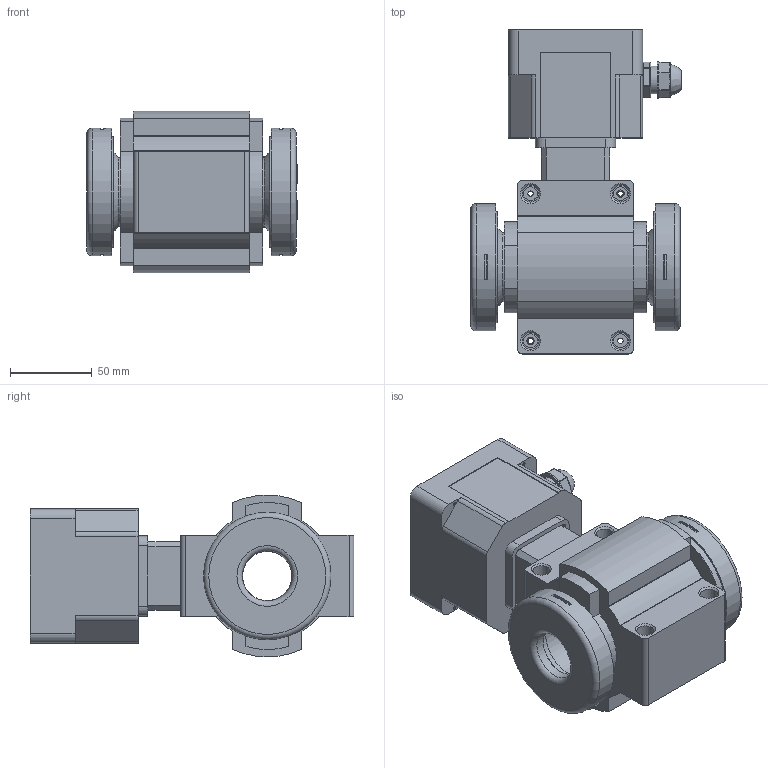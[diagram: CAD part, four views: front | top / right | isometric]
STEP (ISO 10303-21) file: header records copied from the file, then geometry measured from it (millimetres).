
FILE_DESCRIPTION(/* description */ (''),/* implementation_level */ '2;1');
FILE_NAME(/* name */ 'C:\ТЭК\Реклама\ПРЭМ-32S\ПРЭМ-32S.stp',/* time_stamp */ '2020-01-27T15:28:27+03:00',/* author */ ('Kishalov.m'),/* organization */ (''),/* preprocessor_version */ 'ST-DEVELOPER v18',/* originating_system */ 'Autodesk Inventor 2020',/* authorisation */ '');
FILE_SCHEMA (('AUTOMOTIVE_DESIGN { 1 0 10303 214 3 1 1 }'));
Products named in the file (1): ПРЭМ-32S
Bounding box: 128.6 x 198 x 99 mm (x, y, z)
Volume: 457732.1 mm3; surface area: 251278.2 mm2
Topology: 8 solids, 8 shells, 2440 faces, 6515 edges, 4203 vertices
Faces by surface type: plane 1436, bspline 449, cylinder 443, sphere 60, cone 42, torus 10
Full cylindrical faces by diameter (mm): 0.431 x1, 0.546 x1, 1.159 x2, 1.5 x2, 1.7 x4, 1.8 x8, 2.5 x8, 3.242 x12, 4.2 x1, 4.5 x8, 4.7 x4, 4.9 x4, 5.472 x1, 5.5 x3, 7.5 x4, 8.5 x12, 10.3 x8, 11 x8, 12 x2, 13 x2, 17 x6, 19.094 x2, 20.5 x1, 38 x3, 42 x1, 42.5 x4, 68 x2, 75 x2, 75.5 x2, 77.9 x2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
Entity records: 84349 total; most frequent: CARTESIAN_POINT 23346, ORIENTED_EDGE 12850, DIRECTION 10686, EDGE_CURVE 6425, LINE 4368, VECTOR 4368, VERTEX_POINT 4203, AXIS2_PLACEMENT_3D 3159
